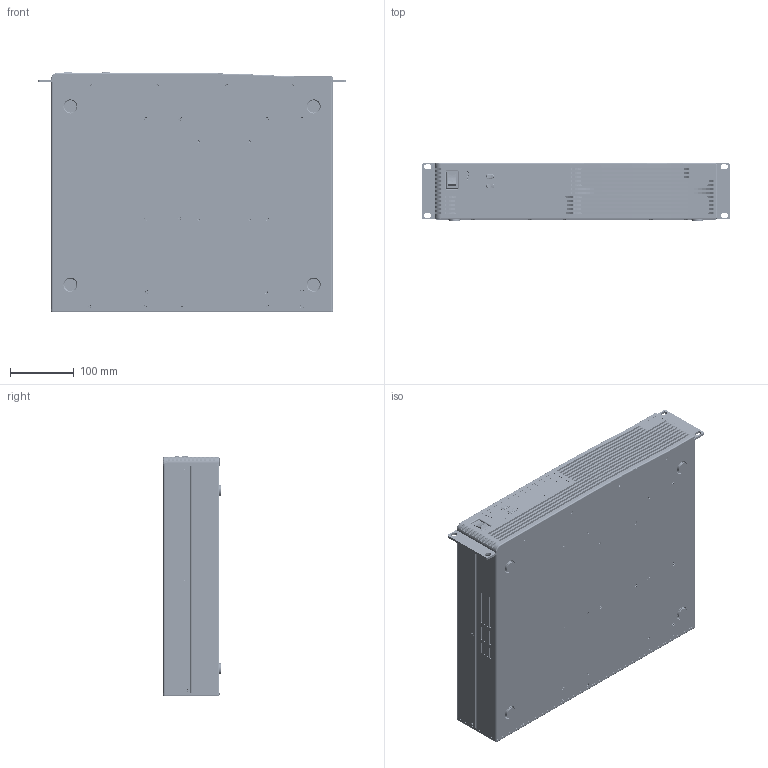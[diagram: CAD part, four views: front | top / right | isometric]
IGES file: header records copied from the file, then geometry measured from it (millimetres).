
Start section: SolidWorks IGES file using analytic representation for surfaces
Global section: file name: H:\Dropbox\Mechanical Engr\Development Projects (P)\7200 MultiSource Controller Series\Customer Model Development\7254\Step 5 - 725X TLA, Simplified.IGS; native system: SolidWorks 2019; preprocessor: SolidWorks 2019; author: mrhan; date: 200405.184816; units: inch
Bounding box: 482.6 x 90.59 x 377.63 mm (x, y, z)
Surface area: 638887.1 mm2 (no closed solid volume)
Topology: 0 solids, 0 shells, 9251 faces, 87590 edges, 87524 vertices
Faces by surface type: bspline 7292, revolution 1959
